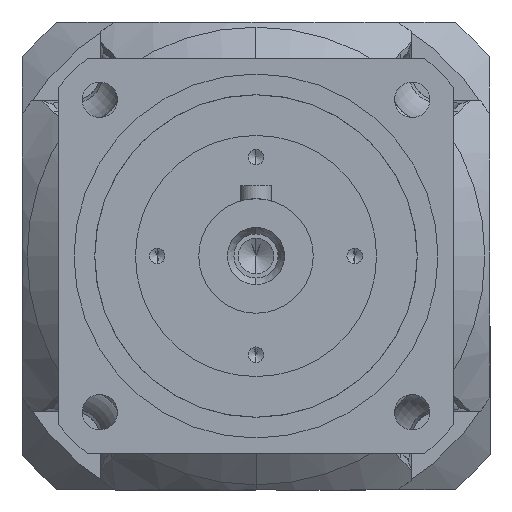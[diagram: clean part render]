
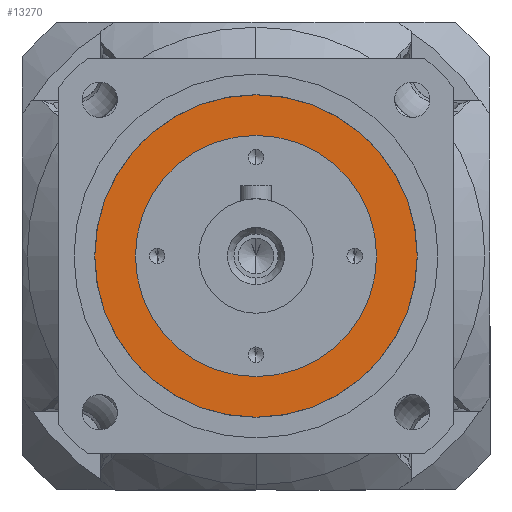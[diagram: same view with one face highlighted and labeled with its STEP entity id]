
A CAD part, left-side view. The second image highlights one B-rep face of the part: STEP entity #13270.
In plain terms, the highlighted planar face has unit normal (-1, 0, 0) as drawn and (0, 0, 1) by its records, which use the part's own axes.
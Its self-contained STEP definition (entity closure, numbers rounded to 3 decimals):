
#1552 = VERTEX_POINT ( 'NONE', #12298 ) ;
#1557 = EDGE_CURVE ( 'NONE', #1552, #2055, #12174, .T. ) ;
#1940 = VERTEX_POINT ( 'NONE', #12919 ) ;
#2012 = EDGE_CURVE ( 'NONE', #2099, #1940, #13510, .T. ) ;
#2055 = VERTEX_POINT ( 'NONE', #13653 ) ;
#2099 = VERTEX_POINT ( 'NONE', #13564 ) ;
#5781 = DIRECTION ( 'NONE',  ( -1., 0., 0. ) ) ;
#5782 = DIRECTION ( 'NONE',  ( 0., 0., -1. ) ) ;
#5831 = AXIS2_PLACEMENT_3D ( 'NONE', #5884, #5782, #5781 ) ;
#5832 = CIRCLE ( 'NONE', #5831, 23.2 ) ;
#5884 = CARTESIAN_POINT ( 'NONE',  ( 0., 0., 18. ) ) ;
#6069 = DIRECTION ( 'NONE',  ( 1., 0., 0. ) ) ;
#6083 = DIRECTION ( 'NONE',  ( 0., 0., 1. ) ) ;
#6084 = CARTESIAN_POINT ( 'NONE',  ( 0., 31., 18. ) ) ;
#6085 = FACE_OUTER_BOUND ( 'NONE', #13272, .T. ) ;
#6087 = AXIS2_PLACEMENT_3D ( 'NONE', #6084, #6083, #6069 ) ;
#6088 = DIRECTION ( 'NONE',  ( -1., 0., 0. ) ) ;
#6089 = DIRECTION ( 'NONE',  ( 0., 0., -1. ) ) ;
#6090 = AXIS2_PLACEMENT_3D ( 'NONE', #6101, #6089, #6088 ) ;
#6091 = PLANE ( 'NONE',  #6087 ) ;
#6092 = FACE_BOUND ( 'NONE', #13262, .T. ) ;
#6098 = CIRCLE ( 'NONE', #6090, 31. ) ;
#6101 = CARTESIAN_POINT ( 'NONE',  ( 0., 0., 18. ) ) ;
#12172 = AXIS2_PLACEMENT_3D ( 'NONE', #12297, #12264, #12263 ) ;
#12174 = CIRCLE ( 'NONE', #12172, 31. ) ;
#12263 = DIRECTION ( 'NONE',  ( -1., 0., 0. ) ) ;
#12264 = DIRECTION ( 'NONE',  ( 0., 0., -1. ) ) ;
#12297 = CARTESIAN_POINT ( 'NONE',  ( 0., 0., 18. ) ) ;
#12298 = CARTESIAN_POINT ( 'NONE',  ( -31., 0., 18. ) ) ;
#12919 = CARTESIAN_POINT ( 'NONE',  ( 23.2, 0., 18. ) ) ;
#13115 = EDGE_CURVE ( 'NONE', #1940, #2099, #5832, .T. ) ;
#13130 = ORIENTED_EDGE ( 'NONE', *, *, #1557, .F. ) ;
#13133 = ORIENTED_EDGE ( 'NONE', *, *, #13263, .F. ) ;
#13262 = EDGE_LOOP ( 'NONE', ( #13271, #13267 ) ) ;
#13263 = EDGE_CURVE ( 'NONE', #2055, #1552, #6098, .T. ) ;
#13267 = ORIENTED_EDGE ( 'NONE', *, *, #13115, .T. ) ;
#13270 = ADVANCED_FACE ( 'NONE', ( #6092, #6085 ), #6091, .T. ) ;
#13271 = ORIENTED_EDGE ( 'NONE', *, *, #2012, .T. ) ;
#13272 = EDGE_LOOP ( 'NONE', ( #13130, #13133 ) ) ;
#13366 = DIRECTION ( 'NONE',  ( 0., 0., -1. ) ) ;
#13483 = CARTESIAN_POINT ( 'NONE',  ( 0., 0., 18. ) ) ;
#13484 = AXIS2_PLACEMENT_3D ( 'NONE', #13483, #13366, #13489 ) ;
#13489 = DIRECTION ( 'NONE',  ( -1., 0., 0. ) ) ;
#13510 = CIRCLE ( 'NONE', #13484, 23.2 ) ;
#13564 = CARTESIAN_POINT ( 'NONE',  ( -23.2, 0., 18. ) ) ;
#13653 = CARTESIAN_POINT ( 'NONE',  ( 31., 0., 18. ) ) ;
